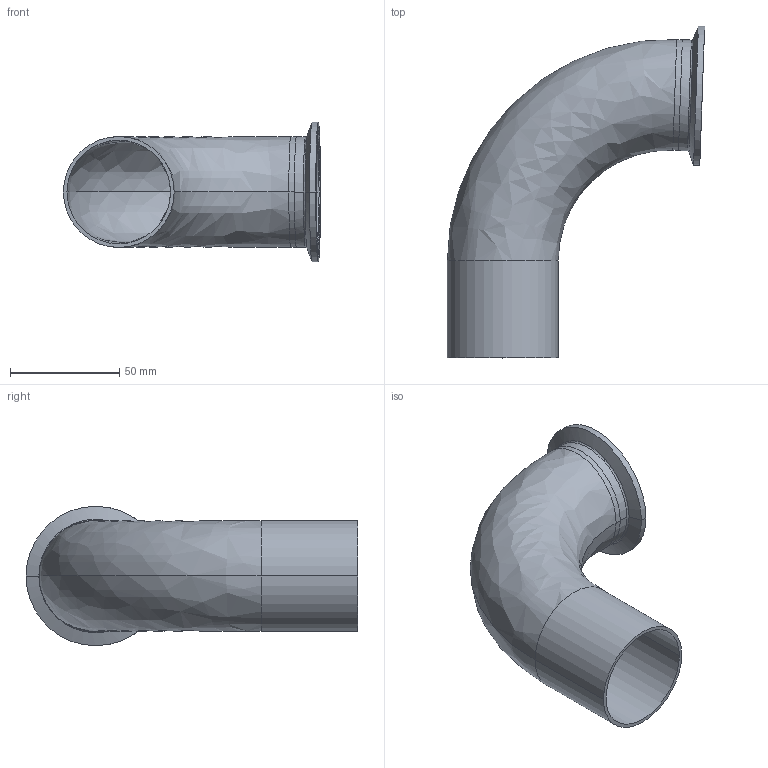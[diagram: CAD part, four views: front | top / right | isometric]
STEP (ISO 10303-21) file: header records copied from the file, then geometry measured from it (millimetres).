
FILE_DESCRIPTION (( 'STEP AP214' ), '1' );
FILE_NAME ('TE2C926L2.0-...STEP', '2016-05-22T11:05:51', ( 'eran' ), ( '' ), 'SwSTEP 2.0', 'SolidWorks 2016', '' );
FILE_SCHEMA (( 'AUTOMOTIVE_DESIGN' ));
Length unit declared in the file: millimetre
Products named in the file (1): TE2C926L2.0-..
Bounding box: 117.96 x 152.17 x 63.91 mm (x, y, z)
Volume: 50184.9 mm3; surface area: 58626.3 mm2
Topology: 2 solids, 2 shells, 39 faces, 92 edges, 58 vertices
Faces by surface type: bspline 14, cylinder 14, cone 6, plane 5
Entity records: 1904 total; most frequent: CARTESIAN_POINT 960, DIRECTION 204, ORIENTED_EDGE 184, AXIS2_PLACEMENT_3D 92, EDGE_CURVE 92, CIRCLE 66, VERTEX_POINT 58, EDGE_LOOP 44
